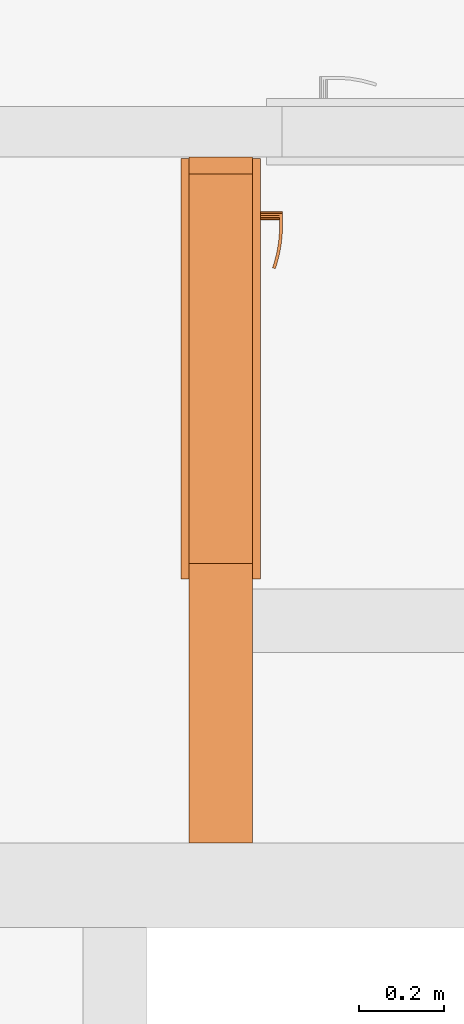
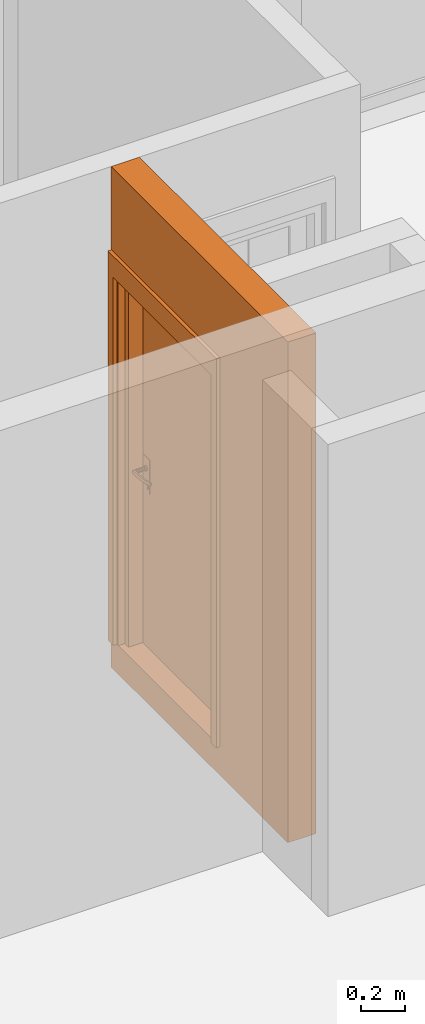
# One storey, part 28 of 61: 2 proxies, 1 opening.
"""IFC2X3 building model written with IfcOpenShell, lengths in millimetres."""

from ifc_helpers import new_model, entity, si_unit, converted_unit, derived_unit, money_unit, direction, frame, origin_with_axes, origin_2d_with_axis, place, context, subcontext, project, spatial, rectangle, extrude, open_shell, faceted_brep, surface_model, source, transform, mapped, material, type_object, element, fill, save


model = new_model("IFC2X3")

# Units and contexts
model_context = context("Model", 3, precision=0.01, world=origin_with_axes(), true_north=direction((0.34421633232, 0.938890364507)))
body_context = subcontext(model_context, "Body", "Model", "MODEL_VIEW")
ifc_project = project(units=[si_unit("LENGTHUNIT", "METRE", prefix="MILLI"), si_unit("AREAUNIT", "SQUARE_METRE"), si_unit("VOLUMEUNIT", "CUBIC_METRE"), converted_unit("PLANEANGLEUNIT", "DEGREE", entity("IfcPlaneAngleMeasure", 0.0174532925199), si_unit("PLANEANGLEUNIT", "RADIAN"), dimensions=[0, 0, 0, 0, 0, 0, 0]), si_unit("SOLIDANGLEUNIT", "STERADIAN"), money_unit("USD"), converted_unit("TIMEUNIT", "Year", entity("IfcTimeMeasure", 31556926.0), si_unit("TIMEUNIT", "SECOND"), dimensions=[0, 0, 1, 0, 0, 0, 0]), si_unit("MASSUNIT", "GRAM", prefix="KILO"), si_unit("THERMODYNAMICTEMPERATUREUNIT", "DEGREE_CELSIUS"), si_unit("LUMINOUSINTENSITYUNIT", "LUMEN"), si_unit("ENERGYUNIT", "JOULE", prefix="MEGA"), derived_unit("THERMALCONDUCTANCEUNIT", [(si_unit("POWERUNIT", "WATT"), 1), (si_unit("LENGTHUNIT", "METRE"), -1), (si_unit("THERMODYNAMICTEMPERATUREUNIT", "KELVIN"), -1)]), derived_unit("SPECIFICHEATCAPACITYUNIT", [(si_unit("ENERGYUNIT", "JOULE"), 1), (si_unit("MASSUNIT", "GRAM", prefix="KILO"), -1), (si_unit("THERMODYNAMICTEMPERATUREUNIT", "KELVIN"), -1)]), derived_unit("MASSDENSITYUNIT", [(si_unit("MASSUNIT", "GRAM", prefix="KILO"), 1), (si_unit("VOLUMEUNIT", "CUBIC_METRE"), -1)])], contexts=[model_context])

# Site, building, storey
site_placement = place(None, origin_with_axes())
site = spatial("IfcSite", under=ifc_project, at=site_placement, Name="USTRONIE MORSKIE", CompositionType="ELEMENT")
building_placement = place(site_placement, origin_with_axes())
building = spatial("IfcBuilding", under=site, at=building_placement, Name="Budynek", CompositionType="ELEMENT")
storey_placement = place(building_placement, frame((0.0, 0.0, 13000.0), z_axis=(0.0, 0.0, 1.0), x_axis=(1.0, 0.0, 0.0)))
storey = spatial("IfcBuildingStorey", under=building, at=storey_placement, Name="PIĘTRO 4", CompositionType="ELEMENT", Elevation=13000.0)

# Proxies, opening
ifc_material = material(Name="Bloczki silikatowe")
building_element_proxy_type_1 = type_object("IfcBuildingElementProxyType", Name="Bloczki silikatowe 150", PredefinedType="NOTDEFINED")
proxy_1_placement = place(storey_placement, frame((353042.920919, 744701.199036, -160.0), z_axis=(0.0, 0.0, 1.0), x_axis=(0.0, 1.0, 0.0)))
proxy_1 = element("IfcBuildingElementProxy", 1, at=proxy_1_placement, inside=storey, type_object=building_element_proxy_type_1, material=ifc_material, Name="SW-03", context=body_context, shape_type="Brep", body=[
    faceted_brep([(1720.0, -75.0, 2800.0), (1720.0, 75.0, 2800.0), (100.0, 75.0, 2800.0), (100.0, -75.0, 2800.0), (1720.0, -75.0, 0.0), (1720.0, 75.0, 0.0), (100.0, 75.0, 0.0), (100.0, -75.0, 0.0)], [[[0, 1, 2, 3]], [[1, 0, 4, 5]], [[1, 5, 6, 2]], [[7, 3, 2, 6]], [[4, 0, 3, 7]], [[5, 4, 7, 6]]]),
])
opening_placement = place(proxy_1_placement, frame((1220.0, 0.0, 160.0), z_axis=(0.0, 0.0, 1.0), x_axis=(1.0, 0.0, 0.0)))
opening = element("IfcOpeningElement", 2, at=opening_placement, cuts=proxy_1, Name="Dw.4", context=body_context, shape_type="SweptSolid", body=[
    extrude(rectangle(XDim=920.0, YDim=2070.0, at=origin_2d_with_axis()), frame((0.0, 150.0, 1035.0), z_axis=(0.0, -1.0, 0.0), x_axis=(-1.0, 0.0, 0.0)), (0.0, 0.0, 1.0), 450.0),
    extrude(rectangle(XDim=994.0, YDim=2177.0, at=origin_2d_with_axis()), frame((0.0, 75.0, 1088.5), z_axis=(0.0, -1.0, 0.0), x_axis=(-1.0, 0.0, 0.0)), (0.0, 0.0, -1.0), 150.0),
    extrude(rectangle(XDim=994.0, YDim=2177.0, at=origin_2d_with_axis()), frame((0.0, -75.0, 1088.5), z_axis=(0.0, 1.0, 0.0), x_axis=(-1.0, 0.0, 0.0)), (0.0, 0.0, -1.0), 150.0),
])
building_element_proxy_type_2 = type_object("IfcBuildingElementProxyType", Name="Drzwi 23", PredefinedType="NOTDEFINED")
shared_shape = source(origin_with_axes(), body_context, "Body", "SurfaceModel", [
    faceted_brep([(-460.0, -115.0, 0.0), (-435.0, -115.0, 0.0), (-435.0, -150.0, 0.0), (-460.0, -150.0, 0.0), (-460.0, -115.0, 2070.0), (-435.0, -115.0, 2045.0), (-435.0, -150.0, 2045.0), (-460.0, -150.0, 2070.0)], [[[0, 1, 2, 3]], [[0, 4, 5, 1]], [[1, 5, 6, 2]], [[3, 2, 6, 7]], [[4, 0, 3, 7]], [[5, 4, 7, 6]]]),
    faceted_brep([(460.0, -115.0, 2070.0), (435.0, -115.0, 2045.0), (435.0, -150.0, 2045.0), (460.0, -150.0, 2070.0), (460.0, -115.0, 0.0), (435.0, -115.0, 0.0), (435.0, -150.0, 0.0), (460.0, -150.0, 0.0)], [[[0, 1, 2, 3]], [[0, 4, 5, 1]], [[1, 5, 6, 2]], [[3, 2, 6, 7]], [[4, 0, 3, 7]], [[5, 4, 7, 6]]]),
    faceted_brep([(-435.0, -115.0, 2045.0), (435.0, -115.0, 2045.0), (435.0, -150.0, 2045.0), (-435.0, -150.0, 2045.0), (-460.0, -115.0, 2070.0), (460.0, -115.0, 2070.0), (460.0, -150.0, 2070.0), (-460.0, -150.0, 2070.0)], [[[0, 1, 2, 3]], [[0, 4, 5, 1]], [[1, 5, 6, 2]], [[3, 2, 6, 7]], [[4, 0, 3, 7]], [[5, 4, 7, 6]]]),
    faceted_brep([(-497.0, -169.0, 0.0), (-497.0, -150.0, 0.0), (-447.0, -150.0, 0.0), (-447.0, -169.0, 0.0), (-497.0, -169.0, 2177.0), (-497.0, -150.0, 2177.0), (-447.0, -150.0, 2057.0), (-447.0, -169.0, 2057.0)], [[[0, 1, 2, 3]], [[4, 5, 1, 0]], [[1, 5, 6, 2]], [[3, 2, 6, 7]], [[0, 3, 7, 4]], [[7, 6, 5, 4]]]),
    faceted_brep([(497.0, -169.0, 2177.0), (497.0, -150.0, 2177.0), (447.0, -150.0, 2057.0), (447.0, -169.0, 2057.0), (497.0, -169.0, 0.0), (497.0, -150.0, 0.0), (447.0, -150.0, 0.0), (447.0, -169.0, 0.0)], [[[0, 1, 2, 3]], [[4, 5, 1, 0]], [[1, 5, 6, 2]], [[3, 2, 6, 7]], [[0, 3, 7, 4]], [[7, 6, 5, 4]]]),
    faceted_brep([(-497.0, -169.0, 2177.0), (-497.0, -150.0, 2177.0), (-447.0, -150.0, 2057.0), (-447.0, -169.0, 2057.0), (497.0, -169.0, 2177.0), (497.0, -150.0, 2177.0), (447.0, -150.0, 2057.0), (447.0, -169.0, 2057.0)], [[[0, 1, 2, 3]], [[4, 5, 1, 0]], [[1, 5, 6, 2]], [[3, 2, 6, 7]], [[0, 3, 7, 4]], [[7, 6, 5, 4]]]),
    faceted_brep([(-497.0, 19.0, 0.0), (-447.0, 19.0, 0.0), (-447.0, 0.0, 0.0), (-497.0, 0.0, 0.0), (-497.0, 19.0, 2177.0), (-447.0, 19.0, 2057.0), (-447.0, 0.0, 2057.0), (-497.0, 0.0, 2177.0)], [[[0, 1, 2, 3]], [[0, 4, 5, 1]], [[1, 5, 6, 2]], [[3, 2, 6, 7]], [[4, 0, 3, 7]], [[5, 4, 7, 6]]]),
    faceted_brep([(497.0, 19.0, 2177.0), (447.0, 19.0, 2057.0), (447.0, 0.0, 2057.0), (497.0, 0.0, 2177.0), (497.0, 19.0, 0.0), (447.0, 19.0, 0.0), (447.0, 0.0, 0.0), (497.0, 0.0, 0.0)], [[[0, 1, 2, 3]], [[0, 4, 5, 1]], [[1, 5, 6, 2]], [[3, 2, 6, 7]], [[4, 0, 3, 7]], [[5, 4, 7, 6]]]),
    faceted_brep([(-497.0, 19.0, 2177.0), (-447.0, 19.0, 2057.0), (-447.0, 0.0, 2057.0), (-497.0, 0.0, 2177.0), (497.0, 19.0, 2177.0), (447.0, 19.0, 2057.0), (447.0, 0.0, 2057.0), (497.0, 0.0, 2177.0)], [[[0, 1, 2, 3]], [[0, 4, 5, 1]], [[1, 5, 6, 2]], [[3, 2, 6, 7]], [[4, 0, 3, 7]], [[5, 4, 7, 6]]]),
    faceted_brep([(-400.0, -40.0, 0.0), (-400.0, -40.0, 2000.0), (-400.0, -115.0, 2000.0), (-400.0, -115.0, 0.0), (-412.0, -40.0, 2000.0), (-412.0, -40.0, 0.0), (-412.0, 0.0, 2000.0), (-460.0, 0.0, 2000.0), (-460.0, -115.0, 2000.0), (-460.0, -115.0, 0.0), (-460.0, 0.0, 0.0), (-412.0, 0.0, 0.0)], [[[0, 1, 2, 3]], [[4, 1, 0, 5]], [[4, 6, 7, 8, 2, 1]], [[3, 2, 8, 9]], [[5, 0, 3, 9, 10, 11]], [[6, 4, 5, 11]], [[6, 11, 10, 7]], [[10, 9, 8, 7]]]),
    faceted_brep([(412.0, -40.0, 2000.0), (400.0, -40.0, 2000.0), (400.0, -115.0, 2000.0), (460.0, -115.0, 2000.0), (460.0, 0.0, 2000.0), (412.0, 0.0, 2000.0), (412.0, -40.0, 0.0), (400.0, -40.0, 0.0), (400.0, -115.0, 0.0), (460.0, -115.0, 0.0), (460.0, 0.0, 0.0), (412.0, 0.0, 0.0)], [[[0, 1, 2, 3, 4, 5]], [[1, 0, 6, 7]], [[1, 7, 8, 2]], [[3, 2, 8, 9]], [[4, 3, 9, 10]], [[11, 5, 4, 10]], [[0, 5, 11, 6]], [[6, 11, 10, 9, 8, 7]]]),
    faceted_brep([(-412.0, 0.0, 2012.0), (-412.0, 0.0, 2000.0), (-460.0, 0.0, 2000.0), (-460.0, 0.0, 2070.0), (460.0, 0.0, 2070.0), (460.0, 0.0, 2000.0), (412.0, 0.0, 2000.0), (412.0, 0.0, 2012.0), (-412.0, -40.0, 2012.0), (-412.0, -40.0, 2000.0), (-400.0, -40.0, 2000.0), (-400.0, -115.0, 2000.0), (-460.0, -115.0, 2000.0), (-460.0, -115.0, 2070.0), (460.0, -115.0, 2070.0), (460.0, -115.0, 2000.0), (412.0, -40.0, 2000.0), (400.0, -115.0, 2000.0), (400.0, -40.0, 2000.0), (412.0, -40.0, 2012.0)], [[[0, 1, 2, 3, 4, 5, 6, 7]], [[1, 0, 8, 9]], [[9, 10, 11, 12, 2, 1]], [[2, 12, 13, 3]], [[3, 13, 14, 4]], [[4, 14, 15, 5]], [[16, 6, 5, 15, 17, 18]], [[7, 6, 16, 19]], [[0, 7, 19, 8]], [[16, 18, 10, 9, 8, 19]], [[10, 18, 17, 11]], [[17, 15, 14, 13, 12, 11]]]),
    faceted_brep([(-390.5, -40.0, 1060.0), (-390.5, -43.0, 1060.0), (-333.5, -43.0, 1060.0), (-333.5, -40.0, 1060.0), (-390.5, -40.0, 870.0), (-390.5, -43.0, 870.0), (-333.5, -43.0, 870.0), (-333.5, -40.0, 870.0)], [[[0, 1, 2, 3]], [[4, 5, 1, 0]], [[1, 5, 6, 2]], [[3, 2, 6, 7]], [[0, 3, 7, 4]], [[7, 6, 5, 4]]]),
    faceted_brep([(-362.0, -104.0, 990.0), (-362.0, -111.0, 990.0), (-367.0, -111.0, 991.339745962), (-367.0, -104.0, 991.339745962), (-337.0, -104.0, 990.0), (-337.0, -111.0, 990.0), (-337.0, -111.0, 1010.0), (-362.0, -111.0, 1010.0), (-367.0, -111.0, 1008.66025404), (-370.660254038, -111.0, 1005.0), (-372.0, -111.0, 1000.0), (-370.660254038, -111.0, 995.0), (-370.660254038, -104.0, 995.0), (-372.0, -104.0, 1000.0), (-370.660254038, -104.0, 1005.0), (-367.0, -104.0, 1008.66025404), (-362.0, -104.0, 1010.0), (-337.0, -104.0, 1010.0)], [[[0, 1, 2, 3]], [[4, 5, 1, 0]], [[1, 5, 6, 7, 8, 9, 10, 11, 2]], [[3, 2, 11, 12]], [[0, 3, 12, 13, 14, 15, 16, 17, 4]], [[17, 6, 5, 4]], [[16, 7, 6, 17]], [[15, 8, 7, 16]], [[14, 9, 8, 15]], [[13, 10, 9, 14]], [[12, 11, 10, 13]]]),
    surface_model("IfcShellBasedSurfaceModel", [(-337.0, -104.0, 1010.0), (-323.596090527, -111.0, 1009.60730092), (-323.901717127, -104.0, 1009.60730092), (-337.0, -111.0, 1010.0), (-296.890283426, -108.663544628, 1008.82190275), (-323.901717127, -104.0, 990.392699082), (-337.0, -104.0, 990.0), (-337.0, -111.0, 990.0), (-323.596090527, -111.0, 990.392699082), (-296.890283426, -108.663544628, 991.178097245), (-297.804837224, -101.716818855, 1008.82190275), (-297.804837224, -101.716818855, 991.178097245), (-270.489735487, -104.008415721, 991.963495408), (-270.489735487, -104.008415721, 1008.03650459), (-272.006256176, -97.1678329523, 1008.03650459), (-272.006256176, -97.1678329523, 991.963495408), (-244.59537082, -97.0700416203, 992.748893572), (-244.59537082, -97.0700416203, 1007.25110643), (-246.702316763, -90.3876628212, 1007.25110643), (-246.702316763, -90.3876628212, 992.748893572), (-236.538795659, -94.1376880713, 993.0), (-236.538795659, -94.1376880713, 1007.0), (-238.829442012, -87.5221707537, 1007.0), (-238.829442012, -87.5221707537, 993.0)], [open_shell([[[0, 1, 2]], [[0, 3, 1]], [[2, 1, 4]], [[0, 2, 5, 6]], [[3, 7, 8, 1]], [[1, 8, 9, 4]], [[2, 4, 10]], [[2, 10, 11, 5]], [[5, 7, 6]], [[5, 8, 7]], [[11, 9, 8]], [[4, 9, 12, 13]], [[10, 4, 13]], [[10, 14, 15, 11]], [[11, 8, 5]], [[15, 9, 11]], [[15, 12, 9]], [[13, 12, 16, 17]], [[10, 13, 14]], [[14, 18, 19, 15]], [[19, 12, 15]], [[19, 16, 12]], [[17, 16, 20, 21]], [[14, 13, 17]], [[14, 17, 18]], [[18, 22, 23, 19]], [[23, 16, 19]], [[23, 20, 16]], [[22, 21, 20, 23]], [[18, 17, 21]], [[18, 21, 22]]])]),
    faceted_brep([(-351.607695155, -53.0, 994.0), (-350.741669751, -43.0, 993.5), (-349.0, -43.0, 1000.0), (-350.0, -53.0, 1000.0), (-356.0, -53.0, 989.607695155), (-355.5, -43.0, 988.741669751), (-362.0, -43.0, 987.0), (-368.5, -43.0, 988.741669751), (-373.258330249, -43.0, 993.5), (-375.0, -43.0, 1000.0), (-373.258330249, -43.0, 1006.5), (-368.5, -43.0, 1011.25833025), (-362.0, -43.0, 1013.0), (-355.5, -43.0, 1011.25833025), (-350.741669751, -43.0, 1006.5), (-351.607695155, -53.0, 1006.0), (-356.0, -53.0, 1010.39230485), (-362.0, -53.0, 1012.0), (-368.0, -53.0, 1010.39230485), (-372.392304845, -53.0, 1006.0), (-374.0, -53.0, 1000.0), (-372.392304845, -53.0, 994.0), (-368.0, -53.0, 989.607695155), (-362.0, -53.0, 988.0)], [[[0, 1, 2, 3]], [[4, 5, 1, 0]], [[2, 1, 5, 6, 7, 8, 9, 10, 11, 12, 13, 14]], [[3, 2, 14, 15]], [[3, 15, 16, 17, 18, 19, 20, 21, 22, 23, 4, 0]], [[23, 6, 5, 4]], [[22, 7, 6, 23]], [[21, 8, 7, 22]], [[20, 9, 8, 21]], [[19, 10, 9, 20]], [[18, 11, 10, 19]], [[17, 12, 11, 18]], [[16, 13, 12, 17]], [[15, 14, 13, 16]]]),
    faceted_brep([(-344.679491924, -47.0, 895.0), (-342.947441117, -43.0, 894.0), (-340.0, -43.0, 905.0), (-342.0, -47.0, 905.0), (-352.0, -47.0, 887.679491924), (-351.0, -43.0, 885.947441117), (-362.0, -43.0, 883.0), (-373.0, -43.0, 885.947441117), (-381.052558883, -43.0, 894.0), (-384.0, -43.0, 905.0), (-381.052558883, -43.0, 916.0), (-373.0, -43.0, 924.052558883), (-362.0, -43.0, 927.0), (-351.0, -43.0, 924.052558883), (-342.947441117, -43.0, 916.0), (-344.679491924, -47.0, 915.0), (-352.0, -47.0, 922.320508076), (-362.0, -47.0, 925.0), (-372.0, -47.0, 922.320508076), (-379.320508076, -47.0, 915.0), (-382.0, -47.0, 905.0), (-379.320508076, -47.0, 895.0), (-372.0, -47.0, 887.679491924), (-362.0, -47.0, 885.0)], [[[0, 1, 2, 3]], [[4, 5, 1, 0]], [[2, 1, 5, 6, 7, 8, 9, 10, 11, 12, 13, 14]], [[3, 2, 14, 15]], [[3, 15, 16, 17, 18, 19, 20, 21, 22, 23, 4, 0]], [[23, 6, 5, 4]], [[22, 7, 6, 23]], [[21, 8, 7, 22]], [[20, 9, 8, 21]], [[19, 10, 9, 20]], [[18, 11, 10, 19]], [[17, 12, 11, 18]], [[16, 13, 12, 17]], [[15, 14, 13, 16]]]),
    faceted_brep([(-357.050252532, -49.0, 909.050252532), (-356.343145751, -47.0, 908.343145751), (-354.0, -47.0, 914.0), (-355.0, -49.0, 914.0), (-362.0, -49.0, 907.0), (-362.0, -47.0, 906.0), (-367.656854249, -47.0, 908.343145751), (-370.0, -47.0, 914.0), (-367.656854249, -47.0, 919.656854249), (-362.0, -47.0, 922.0), (-356.343145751, -47.0, 919.656854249), (-357.050252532, -49.0, 918.949747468), (-362.0, -49.0, 921.0), (-366.949747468, -49.0, 918.949747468), (-369.0, -49.0, 914.0), (-366.949747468, -49.0, 909.050252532)], [[[0, 1, 2, 3]], [[4, 5, 1, 0]], [[2, 1, 5, 6, 7, 8, 9, 10]], [[3, 2, 10, 11]], [[3, 11, 12, 13, 14, 15, 4, 0]], [[15, 6, 5, 4]], [[14, 7, 6, 15]], [[13, 8, 7, 14]], [[12, 9, 8, 13]], [[11, 10, 9, 12]]]),
    faceted_brep([(-362.0, -53.0, 1010.0), (-362.0, -104.0, 1010.0), (-357.0, -104.0, 1008.66025404), (-357.0, -53.0, 1008.66025404), (-367.0, -53.0, 1008.66025404), (-367.0, -104.0, 1008.66025404), (-370.660254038, -104.0, 1005.0), (-372.0, -104.0, 1000.0), (-370.660254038, -104.0, 995.0), (-367.0, -104.0, 991.339745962), (-362.0, -104.0, 990.0), (-357.0, -104.0, 991.339745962), (-353.339745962, -104.0, 995.0), (-352.0, -104.0, 1000.0), (-353.339745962, -104.0, 1005.0), (-353.339745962, -53.0, 1005.0), (-352.0, -53.0, 1000.0), (-353.339745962, -53.0, 995.0), (-357.0, -53.0, 991.339745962), (-362.0, -53.0, 990.0), (-367.0, -53.0, 991.339745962), (-370.660254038, -53.0, 995.0), (-372.0, -53.0, 1000.0), (-370.660254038, -53.0, 1005.0)], [[[0, 1, 2, 3]], [[4, 5, 1, 0]], [[1, 5, 6, 7, 8, 9, 10, 11, 12, 13, 14, 2]], [[3, 2, 14, 15]], [[0, 3, 15, 16, 17, 18, 19, 20, 21, 22, 23, 4]], [[23, 6, 5, 4]], [[22, 7, 6, 23]], [[21, 8, 7, 22]], [[20, 9, 8, 21]], [[19, 10, 9, 20]], [[18, 11, 10, 19]], [[17, 12, 11, 18]], [[16, 13, 12, 17]], [[15, 14, 13, 16]]]),
    faceted_brep([(-390.5, 0.0, 1060.0), (-333.5, 0.0, 1060.0), (-333.5, 3.0, 1060.0), (-390.5, 3.0, 1060.0), (-390.5, 0.0, 870.0), (-333.5, 0.0, 870.0), (-333.5, 3.0, 870.0), (-390.5, 3.0, 870.0)], [[[0, 1, 2, 3]], [[0, 4, 5, 1]], [[1, 5, 6, 2]], [[3, 2, 6, 7]], [[4, 0, 3, 7]], [[5, 4, 7, 6]]]),
    faceted_brep([(-362.0, 64.0, 990.0), (-367.0, 64.0, 991.339745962), (-367.0, 71.0, 991.339745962), (-362.0, 71.0, 990.0), (-337.0, 64.0, 990.0), (-337.0, 64.0, 1010.0), (-362.0, 64.0, 1010.0), (-367.0, 64.0, 1008.66025404), (-370.660254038, 64.0, 1005.0), (-372.0, 64.0, 1000.0), (-370.660254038, 64.0, 995.0), (-370.660254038, 71.0, 995.0), (-372.0, 71.0, 1000.0), (-370.660254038, 71.0, 1005.0), (-367.0, 71.0, 1008.66025404), (-362.0, 71.0, 1010.0), (-337.0, 71.0, 1010.0), (-337.0, 71.0, 990.0)], [[[0, 1, 2, 3]], [[0, 4, 5, 6, 7, 8, 9, 10, 1]], [[1, 10, 11, 2]], [[3, 2, 11, 12, 13, 14, 15, 16, 17]], [[4, 0, 3, 17]], [[5, 4, 17, 16]], [[6, 5, 16, 15]], [[7, 6, 15, 14]], [[8, 7, 14, 13]], [[9, 8, 13, 12]], [[10, 9, 12, 11]]]),
    surface_model("IfcShellBasedSurfaceModel", [(-337.0, 64.0, 1010.0), (-323.901717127, 64.0, 1009.60730092), (-323.596090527, 71.0, 1009.60730092), (-337.0, 64.0, 990.0), (-323.901717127, 64.0, 990.392699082), (-296.890283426, 68.6635446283, 1008.82190275), (-337.0, 71.0, 1010.0), (-337.0, 71.0, 990.0), (-297.804837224, 61.716818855, 991.178097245), (-297.804837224, 61.716818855, 1008.82190275), (-296.890283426, 68.6635446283, 991.178097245), (-323.596090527, 71.0, 990.392699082), (-272.006256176, 57.1678329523, 991.963495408), (-272.006256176, 57.1678329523, 1008.03650459), (-270.489735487, 64.0084157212, 1008.03650459), (-270.489735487, 64.0084157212, 991.963495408), (-246.702316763, 50.3876628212, 992.748893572), (-246.702316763, 50.3876628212, 1007.25110643), (-244.59537082, 57.0700416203, 1007.25110643), (-244.59537082, 57.0700416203, 992.748893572), (-238.829442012, 47.5221707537, 993.0), (-238.829442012, 47.5221707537, 1007.0), (-236.538795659, 54.1376880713, 1007.0), (-236.538795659, 54.1376880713, 993.0)], [open_shell([[[0, 1, 2]], [[0, 3, 4, 1]], [[1, 5, 2]], [[0, 2, 6]], [[4, 3, 7]], [[1, 4, 8, 9]], [[1, 9, 5]], [[2, 5, 10, 11]], [[6, 2, 11, 7]], [[4, 7, 11]], [[8, 4, 11]], [[9, 8, 12, 13]], [[9, 14, 5]], [[5, 14, 15, 10]], [[8, 11, 10]], [[12, 8, 10]], [[13, 12, 16, 17]], [[9, 13, 14]], [[14, 18, 19, 15]], [[12, 10, 15]], [[16, 12, 15]], [[17, 16, 20, 21]], [[13, 17, 18]], [[13, 18, 14]], [[18, 22, 23, 19]], [[16, 15, 19]], [[20, 16, 19]], [[21, 20, 23, 22]], [[17, 21, 22]], [[17, 22, 18]], [[20, 19, 23]]])]),
    faceted_brep([(-351.607695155, 13.0, 994.0), (-350.0, 13.0, 1000.0), (-349.0, 3.0, 1000.0), (-350.741669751, 3.0, 993.5), (-356.0, 13.0, 989.607695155), (-362.0, 13.0, 988.0), (-368.0, 13.0, 989.607695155), (-372.392304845, 13.0, 994.0), (-374.0, 13.0, 1000.0), (-372.392304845, 13.0, 1006.0), (-368.0, 13.0, 1010.39230485), (-362.0, 13.0, 1012.0), (-356.0, 13.0, 1010.39230485), (-351.607695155, 13.0, 1006.0), (-350.741669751, 3.0, 1006.5), (-355.5, 3.0, 1011.25833025), (-362.0, 3.0, 1013.0), (-368.5, 3.0, 1011.25833025), (-373.258330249, 3.0, 1006.5), (-375.0, 3.0, 1000.0), (-373.258330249, 3.0, 993.5), (-368.5, 3.0, 988.741669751), (-362.0, 3.0, 987.0), (-355.5, 3.0, 988.741669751)], [[[0, 1, 2, 3]], [[1, 0, 4, 5, 6, 7, 8, 9, 10, 11, 12, 13]], [[1, 13, 14, 2]], [[2, 14, 15, 16, 17, 18, 19, 20, 21, 22, 23, 3]], [[4, 0, 3, 23]], [[5, 4, 23, 22]], [[6, 5, 22, 21]], [[7, 6, 21, 20]], [[8, 7, 20, 19]], [[9, 8, 19, 18]], [[10, 9, 18, 17]], [[11, 10, 17, 16]], [[12, 11, 16, 15]], [[13, 12, 15, 14]]]),
    faceted_brep([(-344.679491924, 7.0, 895.0), (-342.0, 7.0, 905.0), (-340.0, 3.0, 905.0), (-342.947441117, 3.0, 894.0), (-352.0, 7.0, 887.679491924), (-362.0, 7.0, 885.0), (-372.0, 7.0, 887.679491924), (-379.320508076, 7.0, 895.0), (-382.0, 7.0, 905.0), (-379.320508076, 7.0, 915.0), (-372.0, 7.0, 922.320508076), (-362.0, 7.0, 925.0), (-352.0, 7.0, 922.320508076), (-344.679491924, 7.0, 915.0), (-342.947441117, 3.0, 916.0), (-351.0, 3.0, 924.052558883), (-362.0, 3.0, 927.0), (-373.0, 3.0, 924.052558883), (-381.052558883, 3.0, 916.0), (-384.0, 3.0, 905.0), (-381.052558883, 3.0, 894.0), (-373.0, 3.0, 885.947441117), (-362.0, 3.0, 883.0), (-351.0, 3.0, 885.947441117)], [[[0, 1, 2, 3]], [[1, 0, 4, 5, 6, 7, 8, 9, 10, 11, 12, 13]], [[1, 13, 14, 2]], [[2, 14, 15, 16, 17, 18, 19, 20, 21, 22, 23, 3]], [[4, 0, 3, 23]], [[5, 4, 23, 22]], [[6, 5, 22, 21]], [[7, 6, 21, 20]], [[8, 7, 20, 19]], [[9, 8, 19, 18]], [[10, 9, 18, 17]], [[11, 10, 17, 16]], [[12, 11, 16, 15]], [[13, 12, 15, 14]]]),
    faceted_brep([(-357.050252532, 9.0, 909.050252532), (-355.0, 9.0, 914.0), (-354.0, 7.0, 914.0), (-356.343145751, 7.0, 908.343145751), (-362.0, 9.0, 907.0), (-366.949747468, 9.0, 909.050252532), (-369.0, 9.0, 914.0), (-366.949747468, 9.0, 918.949747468), (-362.0, 9.0, 921.0), (-357.050252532, 9.0, 918.949747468), (-356.343145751, 7.0, 919.656854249), (-362.0, 7.0, 922.0), (-367.656854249, 7.0, 919.656854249), (-370.0, 7.0, 914.0), (-367.656854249, 7.0, 908.343145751), (-362.0, 7.0, 906.0)], [[[0, 1, 2, 3]], [[1, 0, 4, 5, 6, 7, 8, 9]], [[1, 9, 10, 2]], [[2, 10, 11, 12, 13, 14, 15, 3]], [[4, 0, 3, 15]], [[5, 4, 15, 14]], [[6, 5, 14, 13]], [[7, 6, 13, 12]], [[8, 7, 12, 11]], [[9, 8, 11, 10]]]),
    faceted_brep([(-362.0, 13.0, 1010.0), (-357.0, 13.0, 1008.66025404), (-357.0, 64.0, 1008.66025404), (-362.0, 64.0, 1010.0), (-367.0, 13.0, 1008.66025404), (-370.660254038, 13.0, 1005.0), (-372.0, 13.0, 1000.0), (-370.660254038, 13.0, 995.0), (-367.0, 13.0, 991.339745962), (-362.0, 13.0, 990.0), (-357.0, 13.0, 991.339745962), (-353.339745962, 13.0, 995.0), (-352.0, 13.0, 1000.0), (-353.339745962, 13.0, 1005.0), (-353.339745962, 64.0, 1005.0), (-352.0, 64.0, 1000.0), (-353.339745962, 64.0, 995.0), (-357.0, 64.0, 991.339745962), (-362.0, 64.0, 990.0), (-367.0, 64.0, 991.339745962), (-370.660254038, 64.0, 995.0), (-372.0, 64.0, 1000.0), (-370.660254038, 64.0, 1005.0), (-367.0, 64.0, 1008.66025404)], [[[0, 1, 2, 3]], [[0, 4, 5, 6, 7, 8, 9, 10, 11, 12, 13, 1]], [[1, 13, 14, 2]], [[3, 2, 14, 15, 16, 17, 18, 19, 20, 21, 22, 23]], [[4, 0, 3, 23]], [[5, 4, 23, 22]], [[6, 5, 22, 21]], [[7, 6, 21, 20]], [[8, 7, 20, 19]], [[9, 8, 19, 18]], [[10, 9, 18, 17]], [[11, 10, 17, 16]], [[12, 11, 16, 15]], [[13, 12, 15, 14]]]),
    faceted_brep([(412.0, 0.0, 0.0), (412.0, -40.0, 0.0), (-412.0, -40.0, 0.0), (-412.0, 0.0, 0.0), (412.0, 0.0, 2012.0), (412.0, -40.0, 2012.0), (-412.0, -40.0, 2012.0), (-412.0, 0.0, 2012.0)], [[[0, 1, 2, 3]], [[4, 5, 1, 0]], [[1, 5, 6, 2]], [[3, 2, 6, 7]], [[0, 3, 7, 4]], [[7, 6, 5, 4]]]),
])
proxy_2_placement = place(opening_placement, frame((400.0, 0.0, 0.0), z_axis=(0.0, 0.0, 1.0), x_axis=(-1.0, 0.0, 0.0)))
proxy_2 = element("IfcBuildingElementProxy", 3, at=proxy_2_placement, inside=storey, type_object=building_element_proxy_type_2, Name="Dw.4", context=body_context, shape_type="MappedRepresentation", body=[
    mapped(shared_shape, transform((400.0, 75.0, 0.0))),
])
fill(opening, proxy_2)

save(model, "model.ifc")
